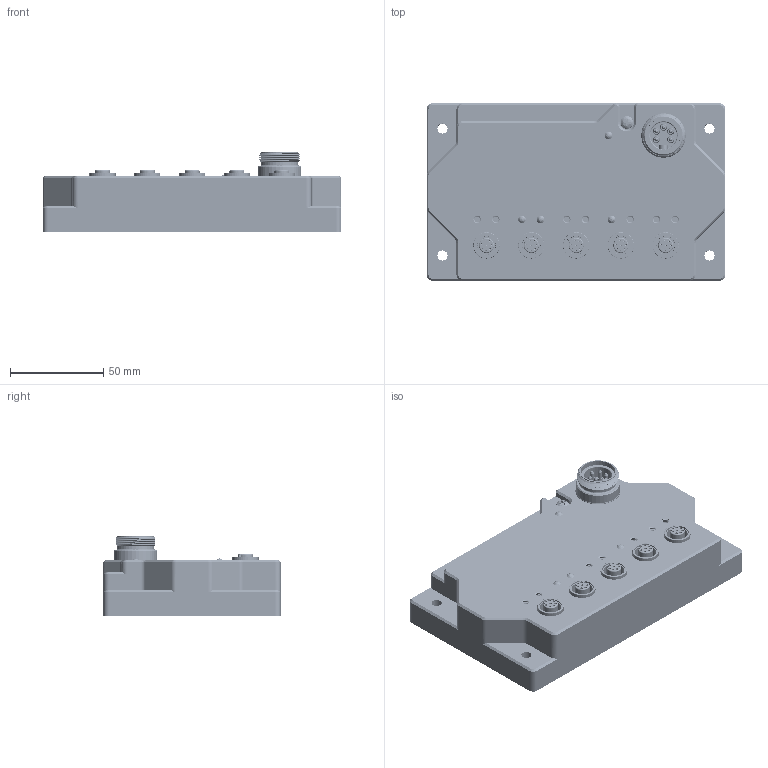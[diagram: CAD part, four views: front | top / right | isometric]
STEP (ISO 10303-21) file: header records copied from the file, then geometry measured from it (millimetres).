
FILE_DESCRIPTION((''),'2;1');
FILE_NAME('C:\TurckZip\SE-44X-E5.stp','2011-04-25T10:28:03',('IKOROL'),(''),'Autodesk Inventor 2010','Autodesk Inventor 2010','');
FILE_SCHEMA(('CONFIG_CONTROL_DESIGN'));
Length unit declared in the file: millimetre
Products named in the file (1): Part1
Bounding box: 160 x 95 x 43.25 mm (x, y, z)
Volume: 495784.6 mm3; surface area: 114557.1 mm2
Topology: 116 solids, 117 shells, 3471 faces, 9369 edges, 6054 vertices
Faces by surface type: cylinder 1631, plane 1091, bspline 451, cone 284, torus 14
Full cylindrical faces by diameter (mm): 0.305 x11, 0.356 x254, 0.444 x2, 0.699 x13, 0.762 x10, 0.8 x40, 0.9 x80, 1 x5, 1.2 x40, 1.27 x1, 1.4 x120, 1.5 x160, 1.6 x5, 1.7 x5, 1.98 x5, 2 x10, 2.8 x5, 3 x10, 3.054 x1, 3.175 x2, 5 x11, 5.3 x11, 5.4 x4, 6.8 x1, 8 x6, 8.1 x5, 9 x5, 9.45 x5, 9.6 x5, 10 x1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
Entity records: 117764 total; most frequent: CARTESIAN_POINT 33673, DIRECTION 17537, ORIENTED_EDGE 14578, AXIS2_PLACEMENT_3D 7747, EDGE_CURVE 7289, EDGE_LOOP 5928, VERTEX_POINT 5289, CIRCLE 4709
